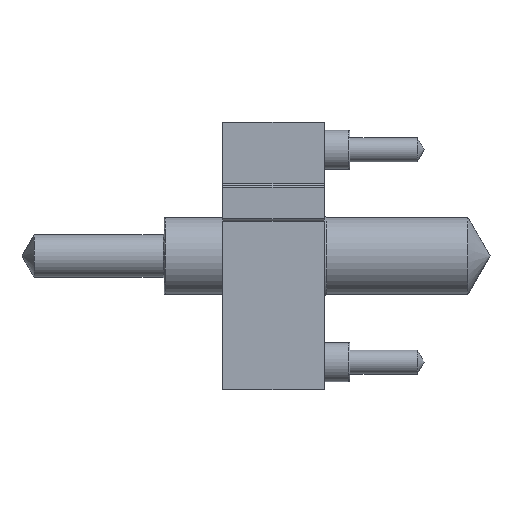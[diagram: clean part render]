
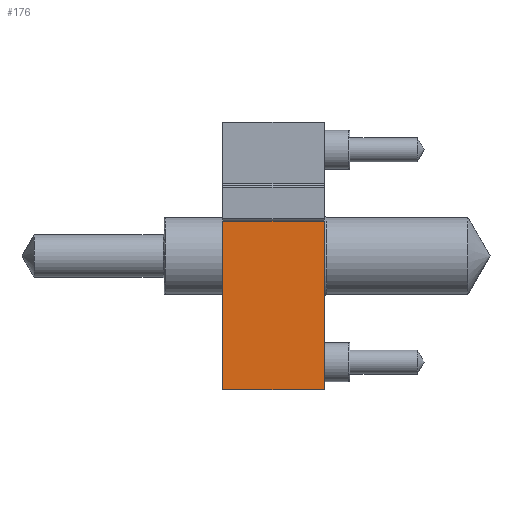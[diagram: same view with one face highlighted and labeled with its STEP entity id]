
A CAD part, left-side view. The second image highlights one B-rep face of the part: STEP entity #176.
In plain terms, the highlighted planar face has unit normal (-1, 0, 0).
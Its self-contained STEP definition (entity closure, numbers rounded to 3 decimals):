
#84 = ORIENTED_EDGE ( 'NONE', *, *, #1383, .F. ) ;
#100 = CARTESIAN_POINT ( 'NONE',  ( -27.5, 0., 16.423 ) ) ;
#161 = VERTEX_POINT ( 'NONE', #1027 ) ;
#176 = ADVANCED_FACE ( 'NONE', ( #1924 ), #1035, .T. ) ;
#181 = VERTEX_POINT ( 'NONE', #1653 ) ;
#331 = DIRECTION ( 'NONE',  ( 0., 0., 1. ) ) ;
#334 = ORIENTED_EDGE ( 'NONE', *, *, #1310, .T. ) ;
#368 = VECTOR ( 'NONE', #331, 1000. ) ;
#416 = DIRECTION ( 'NONE',  ( -1., 0., 0. ) ) ;
#491 = ORIENTED_EDGE ( 'NONE', *, *, #1852, .T. ) ;
#530 = VERTEX_POINT ( 'NONE', #1607 ) ;
#559 = DIRECTION ( 'NONE',  ( 0., 1., 0. ) ) ;
#630 = VECTOR ( 'NONE', #726, 1000. ) ;
#726 = DIRECTION ( 'NONE',  ( 0., 1., 0. ) ) ;
#749 = VERTEX_POINT ( 'NONE', #803 ) ;
#803 = CARTESIAN_POINT ( 'NONE',  ( -27.5, -48., 16.423 ) ) ;
#825 = CARTESIAN_POINT ( 'NONE',  ( -27.5, -48., -63. ) ) ;
#862 = LINE ( 'NONE', #100, #630 ) ;
#889 = AXIS2_PLACEMENT_3D ( 'NONE', #1763, #416, #1630 ) ;
#1027 = CARTESIAN_POINT ( 'NONE',  ( -27.5, 0., -63. ) ) ;
#1035 = PLANE ( 'NONE',  #889 ) ;
#1092 = CARTESIAN_POINT ( 'NONE',  ( -27.5, 0., -63. ) ) ;
#1118 = ORIENTED_EDGE ( 'NONE', *, *, #1393, .F. ) ;
#1159 = CARTESIAN_POINT ( 'NONE',  ( -27.5, -48., -63. ) ) ;
#1310 = EDGE_CURVE ( 'NONE', #530, #749, #1568, .T. ) ;
#1312 = LINE ( 'NONE', #1159, #1726 ) ;
#1383 = EDGE_CURVE ( 'NONE', #161, #181, #1832, .T. ) ;
#1393 = EDGE_CURVE ( 'NONE', #530, #161, #1312, .T. ) ;
#1410 = DIRECTION ( 'NONE',  ( 0., 0., 1. ) ) ;
#1568 = LINE ( 'NONE', #825, #1745 ) ;
#1607 = CARTESIAN_POINT ( 'NONE',  ( -27.5, -48., -63. ) ) ;
#1614 = EDGE_LOOP ( 'NONE', ( #334, #491, #84, #1118 ) ) ;
#1630 = DIRECTION ( 'NONE',  ( 0., 0., 1. ) ) ;
#1653 = CARTESIAN_POINT ( 'NONE',  ( -27.5, 0., 16.423 ) ) ;
#1726 = VECTOR ( 'NONE', #559, 1000. ) ;
#1745 = VECTOR ( 'NONE', #1410, 1000. ) ;
#1763 = CARTESIAN_POINT ( 'NONE',  ( -27.5, -48., -63. ) ) ;
#1832 = LINE ( 'NONE', #1092, #368 ) ;
#1852 = EDGE_CURVE ( 'NONE', #749, #181, #862, .T. ) ;
#1924 = FACE_OUTER_BOUND ( 'NONE', #1614, .T. ) ;
